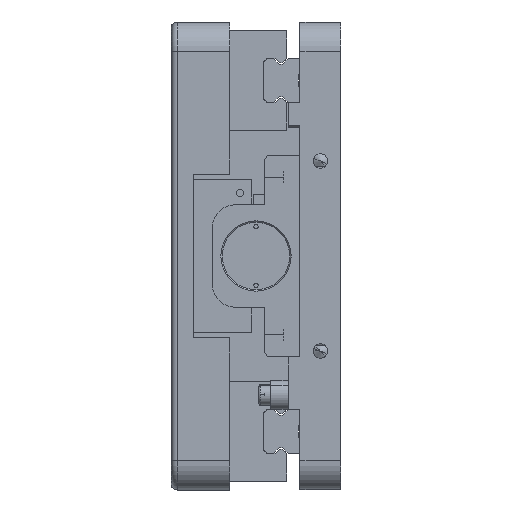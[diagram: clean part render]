
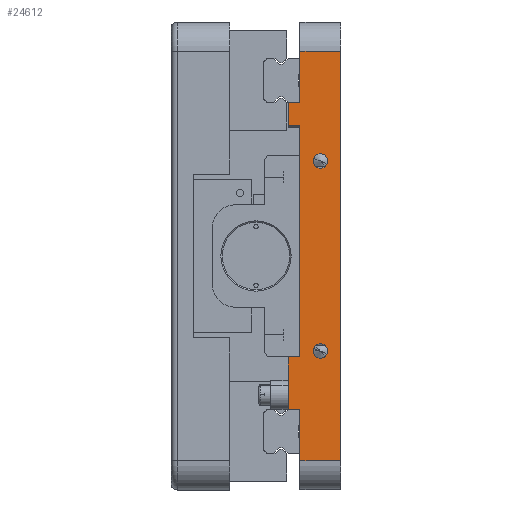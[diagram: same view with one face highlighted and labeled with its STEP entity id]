
A CAD part, left-side view. The second image highlights one B-rep face of the part: STEP entity #24612.
In plain terms, the highlighted planar face has unit normal (-1, 0, 0).
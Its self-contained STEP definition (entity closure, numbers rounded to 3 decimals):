
#234 = CARTESIAN_POINT ( 'NONE',  ( -211.5, -110.209, -34.5 ) ) ;
#465 = CIRCLE ( 'NONE', #1186, 2.5 ) ;
#827 = VECTOR ( 'NONE', #48535, 1000. ) ;
#1141 = EDGE_CURVE ( 'NONE', #4158, #5940, #35747, .T. ) ;
#1186 = AXIS2_PLACEMENT_3D ( 'NONE', #3070, #37120, #41265 ) ;
#3070 = CARTESIAN_POINT ( 'NONE',  ( -211.5, 7., -32.5 ) ) ;
#3317 = EDGE_CURVE ( 'NONE', #9337, #47081, #43251, .T. ) ;
#3349 = DIRECTION ( 'NONE',  ( -1., 0., 0. ) ) ;
#3405 = ORIENTED_EDGE ( 'NONE', *, *, #14560, .F. ) ;
#3731 = CARTESIAN_POINT ( 'NONE',  ( -211.5, -423.893, -52.5 ) ) ;
#4090 = LINE ( 'NONE', #41333, #42353 ) ;
#4158 = VERTEX_POINT ( 'NONE', #28007 ) ;
#4608 = VERTEX_POINT ( 'NONE', #10948 ) ;
#4750 = CARTESIAN_POINT ( 'NONE',  ( -211.5, 18., -52.5 ) ) ;
#4776 = VECTOR ( 'NONE', #36821, 1000. ) ;
#5173 = CIRCLE ( 'NONE', #24845, 2.5 ) ;
#5601 = EDGE_CURVE ( 'NONE', #4608, #27175, #4090, .T. ) ;
#5777 = EDGE_LOOP ( 'NONE', ( #34171, #18622 ) ) ;
#5940 = VERTEX_POINT ( 'NONE', #41355 ) ;
#5997 = DIRECTION ( 'NONE',  ( 0., 0., -1. ) ) ;
#6146 = CARTESIAN_POINT ( 'NONE',  ( -211.5, 14., -80. ) ) ;
#6910 = ORIENTED_EDGE ( 'NONE', *, *, #31725, .T. ) ;
#7409 = DIRECTION ( 'NONE',  ( 0., -1., 0. ) ) ;
#9038 = CARTESIAN_POINT ( 'NONE',  ( -211.5, 14., 70. ) ) ;
#9337 = VERTEX_POINT ( 'NONE', #40087 ) ;
#9499 = VECTOR ( 'NONE', #32998, 1000. ) ;
#9584 = EDGE_LOOP ( 'NONE', ( #16921, #47169 ) ) ;
#10507 = CARTESIAN_POINT ( 'NONE',  ( -211.5, 0., -70. ) ) ;
#10537 = VECTOR ( 'NONE', #5997, 1000. ) ;
#10581 = EDGE_CURVE ( 'NONE', #20708, #17772, #24238, .T. ) ;
#10948 = CARTESIAN_POINT ( 'NONE',  ( -211.5, 14., 44.5 ) ) ;
#11144 = DIRECTION ( 'NONE',  ( -1., 0., 0. ) ) ;
#11179 = EDGE_CURVE ( 'NONE', #27538, #16246, #23624, .T. ) ;
#11307 = DIRECTION ( 'NONE',  ( 0., 0., 1. ) ) ;
#11753 = LINE ( 'NONE', #20980, #10537 ) ;
#12173 = VECTOR ( 'NONE', #19189, 1000. ) ;
#12431 = CARTESIAN_POINT ( 'NONE',  ( -211.5, 7., -35. ) ) ;
#12488 = EDGE_LOOP ( 'NONE', ( #6910, #27567, #16012, #46511, #12826, #13134, #3405, #46151, #48242, #40889, #45430, #33958 ) ) ;
#12826 = ORIENTED_EDGE ( 'NONE', *, *, #43249, .T. ) ;
#13134 = ORIENTED_EDGE ( 'NONE', *, *, #1141, .T. ) ;
#13267 = DIRECTION ( 'NONE',  ( 0., 0., 1. ) ) ;
#13436 = CIRCLE ( 'NONE', #40571, 2.5 ) ;
#13737 = DIRECTION ( 'NONE',  ( 0., 0., -1. ) ) ;
#14560 = EDGE_CURVE ( 'NONE', #27175, #5940, #26544, .T. ) ;
#14584 = CARTESIAN_POINT ( 'NONE',  ( -211.5, 18., 70. ) ) ;
#14990 = CARTESIAN_POINT ( 'NONE',  ( -211.5, 14., -34.5 ) ) ;
#15447 = AXIS2_PLACEMENT_3D ( 'NONE', #28560, #25237, #32168 ) ;
#15564 = VERTEX_POINT ( 'NONE', #9038 ) ;
#16012 = ORIENTED_EDGE ( 'NONE', *, *, #34710, .T. ) ;
#16246 = VERTEX_POINT ( 'NONE', #10507 ) ;
#16405 = FACE_BOUND ( 'NONE', #5777, .T. ) ;
#16539 = VECTOR ( 'NONE', #13267, 1000. ) ;
#16921 = ORIENTED_EDGE ( 'NONE', *, *, #18655, .F. ) ;
#17772 = VERTEX_POINT ( 'NONE', #32431 ) ;
#17854 = CARTESIAN_POINT ( 'NONE',  ( -211.5, -423.893, 52.5 ) ) ;
#18175 = DIRECTION ( 'NONE',  ( 0., 1., 0. ) ) ;
#18592 = DIRECTION ( 'NONE',  ( 0., 1., 0. ) ) ;
#18622 = ORIENTED_EDGE ( 'NONE', *, *, #38636, .F. ) ;
#18655 = EDGE_CURVE ( 'NONE', #30735, #43953, #5173, .T. ) ;
#19189 = DIRECTION ( 'NONE',  ( 0., 0., 1. ) ) ;
#20526 = DIRECTION ( 'NONE',  ( -1., 0., 0. ) ) ;
#20639 = CARTESIAN_POINT ( 'NONE',  ( -211.5, 18., -80. ) ) ;
#20708 = VERTEX_POINT ( 'NONE', #14990 ) ;
#20980 = CARTESIAN_POINT ( 'NONE',  ( -211.5, 14., 44.5 ) ) ;
#21049 = CARTESIAN_POINT ( 'NONE',  ( -211.5, 14., 80. ) ) ;
#21121 = FACE_BOUND ( 'NONE', #9584, .T. ) ;
#21436 = LINE ( 'NONE', #14584, #29722 ) ;
#21642 = VECTOR ( 'NONE', #18175, 1000. ) ;
#21689 = FACE_OUTER_BOUND ( 'NONE', #12488, .T. ) ;
#21731 = CARTESIAN_POINT ( 'NONE',  ( -211.5, 7., 30. ) ) ;
#23624 = LINE ( 'NONE', #34065, #41294 ) ;
#24238 = LINE ( 'NONE', #234, #30713 ) ;
#24612 = ADVANCED_FACE ( 'NONE', ( #21121, #16405, #21689 ), #47818, .F. ) ;
#24845 = AXIS2_PLACEMENT_3D ( 'NONE', #44699, #3349, #26055 ) ;
#24860 = CARTESIAN_POINT ( 'NONE',  ( -211.5, 7., 35. ) ) ;
#25050 = CARTESIAN_POINT ( 'NONE',  ( -211.5, 14., -70. ) ) ;
#25237 = DIRECTION ( 'NONE',  ( 1., 0., 0. ) ) ;
#25338 = CIRCLE ( 'NONE', #43959, 2.5 ) ;
#25855 = EDGE_CURVE ( 'NONE', #47081, #17772, #42828, .T. ) ;
#26055 = DIRECTION ( 'NONE',  ( 0., 0., 1. ) ) ;
#26068 = CARTESIAN_POINT ( 'NONE',  ( -211.5, 18., 44.5 ) ) ;
#26544 = LINE ( 'NONE', #20639, #16539 ) ;
#27175 = VERTEX_POINT ( 'NONE', #26068 ) ;
#27538 = VERTEX_POINT ( 'NONE', #25050 ) ;
#27567 = ORIENTED_EDGE ( 'NONE', *, *, #11179, .T. ) ;
#28007 = CARTESIAN_POINT ( 'NONE',  ( -211.5, 14., 52.5 ) ) ;
#28560 = CARTESIAN_POINT ( 'NONE',  ( -211.5, 18., -80. ) ) ;
#29080 = CARTESIAN_POINT ( 'NONE',  ( -211.5, 0., -80. ) ) ;
#29722 = VECTOR ( 'NONE', #40936, 1000. ) ;
#30027 = DIRECTION ( 'NONE',  ( 0., 1., 0. ) ) ;
#30713 = VECTOR ( 'NONE', #30027, 1000. ) ;
#30735 = VERTEX_POINT ( 'NONE', #35462 ) ;
#30846 = EDGE_CURVE ( 'NONE', #4608, #20708, #11753, .T. ) ;
#31716 = CARTESIAN_POINT ( 'NONE',  ( -211.5, 7., 32.5 ) ) ;
#31725 = EDGE_CURVE ( 'NONE', #9337, #27538, #33955, .T. ) ;
#31885 = DIRECTION ( 'NONE',  ( 0., 0., 1. ) ) ;
#32168 = DIRECTION ( 'NONE',  ( 0., 0., -1. ) ) ;
#32431 = CARTESIAN_POINT ( 'NONE',  ( -211.5, 18., -34.5 ) ) ;
#32998 = DIRECTION ( 'NONE',  ( 0., 0., 1. ) ) ;
#33955 = LINE ( 'NONE', #6146, #39848 ) ;
#33958 = ORIENTED_EDGE ( 'NONE', *, *, #3317, .F. ) ;
#34065 = CARTESIAN_POINT ( 'NONE',  ( -211.5, 18., -70. ) ) ;
#34156 = CARTESIAN_POINT ( 'NONE',  ( -211.5, 18., -80. ) ) ;
#34171 = ORIENTED_EDGE ( 'NONE', *, *, #36107, .F. ) ;
#34710 = EDGE_CURVE ( 'NONE', #16246, #41286, #36604, .T. ) ;
#35462 = CARTESIAN_POINT ( 'NONE',  ( -211.5, 7., -30. ) ) ;
#35591 = VERTEX_POINT ( 'NONE', #24860 ) ;
#35747 = LINE ( 'NONE', #17854, #21642 ) ;
#36107 = EDGE_CURVE ( 'NONE', #35591, #48414, #25338, .T. ) ;
#36604 = LINE ( 'NONE', #29080, #9499 ) ;
#36821 = DIRECTION ( 'NONE',  ( 0., 0., -1. ) ) ;
#37120 = DIRECTION ( 'NONE',  ( -1., 0., 0. ) ) ;
#38636 = EDGE_CURVE ( 'NONE', #48414, #35591, #13436, .T. ) ;
#39642 = EDGE_CURVE ( 'NONE', #43953, #30735, #465, .T. ) ;
#39848 = VECTOR ( 'NONE', #13737, 1000. ) ;
#40087 = CARTESIAN_POINT ( 'NONE',  ( -211.5, 14., -52.5 ) ) ;
#40571 = AXIS2_PLACEMENT_3D ( 'NONE', #44759, #11144, #11307 ) ;
#40889 = ORIENTED_EDGE ( 'NONE', *, *, #10581, .T. ) ;
#40936 = DIRECTION ( 'NONE',  ( 0., 1., 0. ) ) ;
#41265 = DIRECTION ( 'NONE',  ( 0., 0., 1. ) ) ;
#41286 = VERTEX_POINT ( 'NONE', #43422 ) ;
#41294 = VECTOR ( 'NONE', #7409, 1000. ) ;
#41333 = CARTESIAN_POINT ( 'NONE',  ( -211.5, -110.209, 44.5 ) ) ;
#41355 = CARTESIAN_POINT ( 'NONE',  ( -211.5, 18., 52.5 ) ) ;
#41436 = EDGE_CURVE ( 'NONE', #41286, #15564, #21436, .T. ) ;
#42353 = VECTOR ( 'NONE', #18592, 1000. ) ;
#42828 = LINE ( 'NONE', #34156, #12173 ) ;
#43249 = EDGE_CURVE ( 'NONE', #15564, #4158, #44275, .T. ) ;
#43251 = LINE ( 'NONE', #3731, #827 ) ;
#43422 = CARTESIAN_POINT ( 'NONE',  ( -211.5, 0., 70. ) ) ;
#43953 = VERTEX_POINT ( 'NONE', #12431 ) ;
#43959 = AXIS2_PLACEMENT_3D ( 'NONE', #31716, #20526, #31885 ) ;
#44275 = LINE ( 'NONE', #21049, #4776 ) ;
#44699 = CARTESIAN_POINT ( 'NONE',  ( -211.5, 7., -32.5 ) ) ;
#44759 = CARTESIAN_POINT ( 'NONE',  ( -211.5, 7., 32.5 ) ) ;
#45430 = ORIENTED_EDGE ( 'NONE', *, *, #25855, .F. ) ;
#46151 = ORIENTED_EDGE ( 'NONE', *, *, #5601, .F. ) ;
#46511 = ORIENTED_EDGE ( 'NONE', *, *, #41436, .T. ) ;
#47081 = VERTEX_POINT ( 'NONE', #4750 ) ;
#47169 = ORIENTED_EDGE ( 'NONE', *, *, #39642, .F. ) ;
#47818 = PLANE ( 'NONE',  #15447 ) ;
#48242 = ORIENTED_EDGE ( 'NONE', *, *, #30846, .T. ) ;
#48414 = VERTEX_POINT ( 'NONE', #21731 ) ;
#48535 = DIRECTION ( 'NONE',  ( 0., 1., 0. ) ) ;
